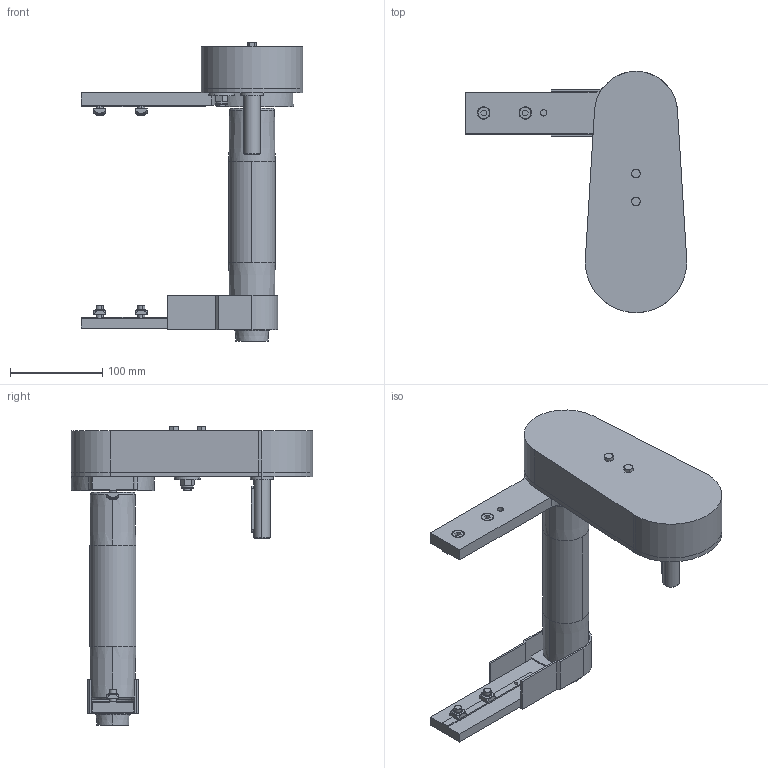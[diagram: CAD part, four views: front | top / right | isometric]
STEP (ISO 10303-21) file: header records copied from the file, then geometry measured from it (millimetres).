
FILE_DESCRIPTION (( 'STEP AP203' ), '1' );
FILE_NAME ('084.050.KTB.44.200.STEP', '2016-10-17T09:23:08', ( '' ), ( '' ), 'SwSTEP 2.0', 'SolidWorks 2016', '' );
FILE_SCHEMA (( 'CONFIG_CONTROL_DESIGN' ));
Length unit declared in the file: millimetre
Products named in the file (1): 084.050.KTB.44.200
Bounding box: 240 x 261.5 x 323 mm (x, y, z)
Surface area: 281022.4 mm2 (no closed solid volume)
Topology: 0 solids, 42 shells, 425 faces, 1517 edges, 1116 vertices
Faces by surface type: plane 193, cylinder 116, cone 58, torus 40, bspline 16, sphere 2
Entity records: 17847 total; most frequent: CARTESIAN_POINT 4964, DIRECTION 2653, ORIENTED_EDGE 2386, EDGE_CURVE 1512, VERTEX_POINT 1113, AXIS2_PLACEMENT_3D 915, VECTOR 823, LINE 823
